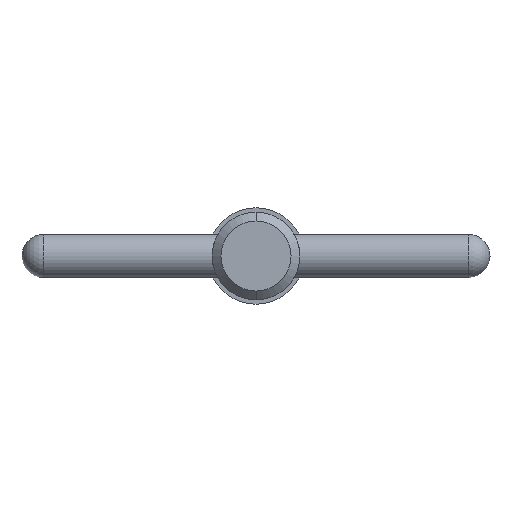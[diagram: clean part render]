
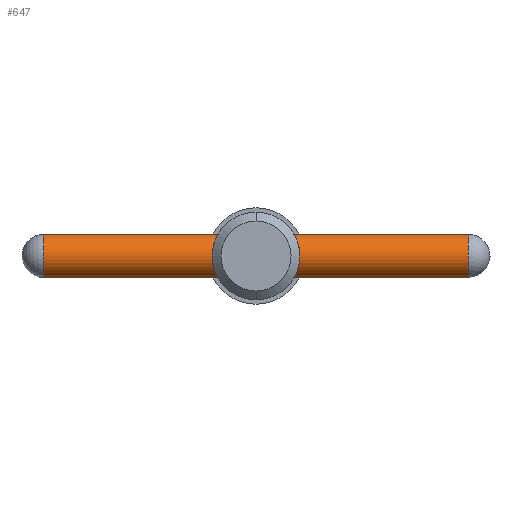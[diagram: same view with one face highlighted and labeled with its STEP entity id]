
A CAD part, left-side view. The second image highlights one B-rep face of the part: STEP entity #647.
In plain terms, the highlighted cylindrical face has radius 1.19 mm (diameter 2.38 mm), a partial arc.
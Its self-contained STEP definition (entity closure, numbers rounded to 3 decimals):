
#17 = ORIENTED_EDGE ( 'NONE', *, *, #765, .T. ) ;
#32 = EDGE_CURVE ( 'NONE', #330, #541, #946, .T. ) ;
#65 = LINE ( 'NONE', #363, #531 ) ;
#70 = DIRECTION ( 'NONE',  ( 0., -1., 0. ) ) ;
#88 = VERTEX_POINT ( 'NONE', #152 ) ;
#106 = CARTESIAN_POINT ( 'NONE',  ( 0., -11.51, -1.19 ) ) ;
#129 = DIRECTION ( 'NONE',  ( 0., 0., -1. ) ) ;
#152 = CARTESIAN_POINT ( 'NONE',  ( 0., 11.51, 1.19 ) ) ;
#190 = DIRECTION ( 'NONE',  ( 0., -1., 0. ) ) ;
#204 = LINE ( 'NONE', #940, #601 ) ;
#242 = VERTEX_POINT ( 'NONE', #848 ) ;
#272 = ORIENTED_EDGE ( 'NONE', *, *, #448, .F. ) ;
#275 = CARTESIAN_POINT ( 'NONE',  ( 0., -11.51, 0. ) ) ;
#287 = CIRCLE ( 'NONE', #682, 1.19 ) ;
#311 = CARTESIAN_POINT ( 'NONE',  ( 0., 11.51, 0. ) ) ;
#330 = VERTEX_POINT ( 'NONE', #106 ) ;
#363 = CARTESIAN_POINT ( 'NONE',  ( 0., 12.7, -1.19 ) ) ;
#388 = ORIENTED_EDGE ( 'NONE', *, *, #32, .T. ) ;
#427 = DIRECTION ( 'NONE',  ( 0., -1., 0. ) ) ;
#448 = EDGE_CURVE ( 'NONE', #88, #541, #204, .T. ) ;
#455 = CARTESIAN_POINT ( 'NONE',  ( 0., 12.7, 0. ) ) ;
#512 = DIRECTION ( 'NONE',  ( 0., 0., -1. ) ) ;
#531 = VECTOR ( 'NONE', #427, 1000. ) ;
#541 = VERTEX_POINT ( 'NONE', #889 ) ;
#557 = EDGE_LOOP ( 'NONE', ( #272, #719, #17, #388 ) ) ;
#601 = VECTOR ( 'NONE', #190, 1000. ) ;
#632 = EDGE_CURVE ( 'NONE', #88, #242, #287, .T. ) ;
#646 = AXIS2_PLACEMENT_3D ( 'NONE', #275, #799, #129 ) ;
#647 = ADVANCED_FACE ( 'NONE', ( #828 ), #969, .T. ) ;
#648 = AXIS2_PLACEMENT_3D ( 'NONE', #455, #815, #963 ) ;
#682 = AXIS2_PLACEMENT_3D ( 'NONE', #311, #70, #512 ) ;
#719 = ORIENTED_EDGE ( 'NONE', *, *, #632, .T. ) ;
#765 = EDGE_CURVE ( 'NONE', #242, #330, #65, .T. ) ;
#799 = DIRECTION ( 'NONE',  ( 0., 1., 0. ) ) ;
#815 = DIRECTION ( 'NONE',  ( 0., -1., 0. ) ) ;
#828 = FACE_OUTER_BOUND ( 'NONE', #557, .T. ) ;
#848 = CARTESIAN_POINT ( 'NONE',  ( 0., 11.51, -1.19 ) ) ;
#889 = CARTESIAN_POINT ( 'NONE',  ( 0., -11.51, 1.19 ) ) ;
#940 = CARTESIAN_POINT ( 'NONE',  ( 0., 12.7, 1.19 ) ) ;
#946 = CIRCLE ( 'NONE', #646, 1.19 ) ;
#963 = DIRECTION ( 'NONE',  ( 0., 0., -1. ) ) ;
#969 = CYLINDRICAL_SURFACE ( 'NONE', #648, 1.19 ) ;
